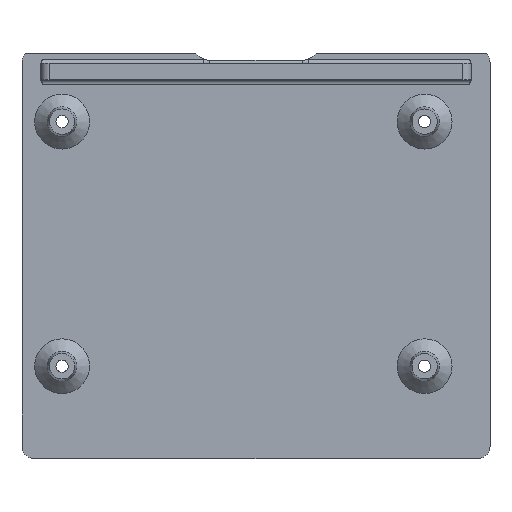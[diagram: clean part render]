
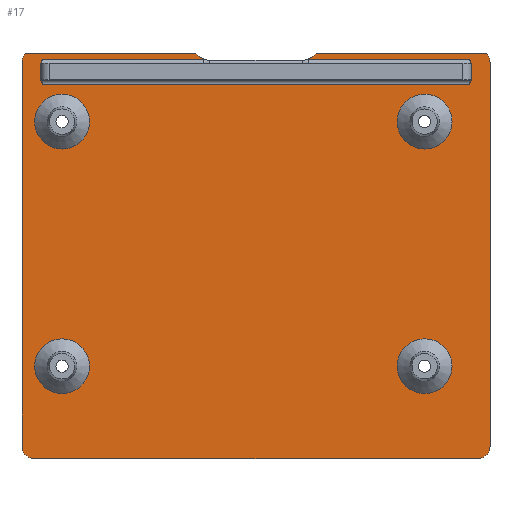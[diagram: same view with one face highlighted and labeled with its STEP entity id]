
A CAD part, top view. The second image highlights one B-rep face of the part: STEP entity #17.
In plain terms, the highlighted planar face has unit normal (0, 0, 1).
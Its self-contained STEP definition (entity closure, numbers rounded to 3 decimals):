
#17 = ADVANCED_FACE('',(#18,#186,#197,#208,#219),#230,.T.);
#18 = FACE_BOUND('',#19,.T.);
#19 = EDGE_LOOP('',(#20,#31,#39,#48,#56,#65,#73,#82,#90,#99,#107,#116,
    #124,#132,#140,#148,#156,#164,#172,#180));
#20 = ORIENTED_EDGE('',*,*,#21,.F.);
#21 = EDGE_CURVE('',#22,#24,#26,.T.);
#22 = VERTEX_POINT('',#23);
#23 = CARTESIAN_POINT('',(-14.244,48.08,5.));
#24 = VERTEX_POINT('',#25);
#25 = CARTESIAN_POINT('',(-12.52,46.72,5.));
#26 = CIRCLE('',#27,4.);
#27 = AXIS2_PLACEMENT_3D('',#28,#29,#30);
#28 = CARTESIAN_POINT('',(-11.,50.42,5.));
#29 = DIRECTION('',(0.,0.,1.));
#30 = DIRECTION('',(-1.,0.,0.));
#31 = ORIENTED_EDGE('',*,*,#32,.T.);
#32 = EDGE_CURVE('',#22,#33,#35,.T.);
#33 = VERTEX_POINT('',#34);
#34 = CARTESIAN_POINT('',(-54.582,48.08,5.));
#35 = LINE('',#36,#37);
#36 = CARTESIAN_POINT('',(-65.25,48.08,5.));
#37 = VECTOR('',#38,1.);
#38 = DIRECTION('',(-1.,0.,0.));
#39 = ORIENTED_EDGE('',*,*,#40,.F.);
#40 = EDGE_CURVE('',#41,#33,#43,.T.);
#41 = VERTEX_POINT('',#42);
#42 = CARTESIAN_POINT('',(-55.5,45.92,5.));
#43 = CIRCLE('',#44,3.);
#44 = AXIS2_PLACEMENT_3D('',#45,#46,#47);
#45 = CARTESIAN_POINT('',(-52.5,45.92,5.));
#46 = DIRECTION('',(-0.,-0.,-1.));
#47 = DIRECTION('',(0.,-1.,0.));
#48 = ORIENTED_EDGE('',*,*,#49,.F.);
#49 = EDGE_CURVE('',#50,#41,#52,.T.);
#50 = VERTEX_POINT('',#51);
#51 = CARTESIAN_POINT('',(-55.5,-45.08,5.));
#52 = LINE('',#53,#54);
#53 = CARTESIAN_POINT('',(-55.5,-48.08,5.));
#54 = VECTOR('',#55,1.);
#55 = DIRECTION('',(0.,1.,0.));
#56 = ORIENTED_EDGE('',*,*,#57,.T.);
#57 = EDGE_CURVE('',#50,#58,#60,.T.);
#58 = VERTEX_POINT('',#59);
#59 = CARTESIAN_POINT('',(-52.5,-48.08,5.));
#60 = CIRCLE('',#61,3.);
#61 = AXIS2_PLACEMENT_3D('',#62,#63,#64);
#62 = CARTESIAN_POINT('',(-52.5,-45.08,5.));
#63 = DIRECTION('',(-0.,0.,1.));
#64 = DIRECTION('',(0.,-1.,0.));
#65 = ORIENTED_EDGE('',*,*,#66,.T.);
#66 = EDGE_CURVE('',#58,#67,#69,.T.);
#67 = VERTEX_POINT('',#68);
#68 = CARTESIAN_POINT('',(52.5,-48.08,5.));
#69 = LINE('',#70,#71);
#70 = CARTESIAN_POINT('',(-55.5,-48.08,5.));
#71 = VECTOR('',#72,1.);
#72 = DIRECTION('',(1.,0.,0.));
#73 = ORIENTED_EDGE('',*,*,#74,.F.);
#74 = EDGE_CURVE('',#75,#67,#77,.T.);
#75 = VERTEX_POINT('',#76);
#76 = CARTESIAN_POINT('',(55.5,-45.08,5.));
#77 = CIRCLE('',#78,3.);
#78 = AXIS2_PLACEMENT_3D('',#79,#80,#81);
#79 = CARTESIAN_POINT('',(52.5,-45.08,5.));
#80 = DIRECTION('',(-0.,-0.,-1.));
#81 = DIRECTION('',(0.,-1.,0.));
#82 = ORIENTED_EDGE('',*,*,#83,.T.);
#83 = EDGE_CURVE('',#75,#84,#86,.T.);
#84 = VERTEX_POINT('',#85);
#85 = CARTESIAN_POINT('',(55.5,45.92,5.));
#86 = LINE('',#87,#88);
#87 = CARTESIAN_POINT('',(55.5,-48.08,5.));
#88 = VECTOR('',#89,1.);
#89 = DIRECTION('',(0.,1.,0.));
#90 = ORIENTED_EDGE('',*,*,#91,.T.);
#91 = EDGE_CURVE('',#84,#92,#94,.T.);
#92 = VERTEX_POINT('',#93);
#93 = CARTESIAN_POINT('',(54.582,48.08,5.));
#94 = CIRCLE('',#95,3.);
#95 = AXIS2_PLACEMENT_3D('',#96,#97,#98);
#96 = CARTESIAN_POINT('',(52.5,45.92,5.));
#97 = DIRECTION('',(-0.,0.,1.));
#98 = DIRECTION('',(0.,-1.,0.));
#99 = ORIENTED_EDGE('',*,*,#100,.T.);
#100 = EDGE_CURVE('',#92,#101,#103,.T.);
#101 = VERTEX_POINT('',#102);
#102 = CARTESIAN_POINT('',(14.244,48.08,5.));
#103 = LINE('',#104,#105);
#104 = CARTESIAN_POINT('',(-65.25,48.08,5.));
#105 = VECTOR('',#106,1.);
#106 = DIRECTION('',(-1.,0.,0.));
#107 = ORIENTED_EDGE('',*,*,#108,.F.);
#108 = EDGE_CURVE('',#109,#101,#111,.T.);
#109 = VERTEX_POINT('',#110);
#110 = CARTESIAN_POINT('',(12.52,46.72,5.));
#111 = CIRCLE('',#112,4.);
#112 = AXIS2_PLACEMENT_3D('',#113,#114,#115);
#113 = CARTESIAN_POINT('',(11.,50.42,5.));
#114 = DIRECTION('',(0.,0.,1.));
#115 = DIRECTION('',(1.,0.,0.));
#116 = ORIENTED_EDGE('',*,*,#117,.F.);
#117 = EDGE_CURVE('',#118,#109,#120,.T.);
#118 = VERTEX_POINT('',#119);
#119 = CARTESIAN_POINT('',(50.732,46.72,5.));
#120 = LINE('',#121,#122);
#121 = CARTESIAN_POINT('',(50.732,46.72,5.));
#122 = VECTOR('',#123,1.);
#123 = DIRECTION('',(-1.,0.,0.));
#124 = ORIENTED_EDGE('',*,*,#125,.F.);
#125 = EDGE_CURVE('',#126,#118,#128,.T.);
#126 = VERTEX_POINT('',#127);
#127 = CARTESIAN_POINT('',(50.732,45.72,5.));
#128 = LINE('',#129,#130);
#129 = CARTESIAN_POINT('',(50.732,41.72,5.));
#130 = VECTOR('',#131,1.);
#131 = DIRECTION('',(0.,1.,0.));
#132 = ORIENTED_EDGE('',*,*,#133,.F.);
#133 = EDGE_CURVE('',#134,#126,#136,.T.);
#134 = VERTEX_POINT('',#135);
#135 = CARTESIAN_POINT('',(50.732,41.72,5.));
#136 = LINE('',#137,#138);
#137 = CARTESIAN_POINT('',(50.732,41.72,5.));
#138 = VECTOR('',#139,1.);
#139 = DIRECTION('',(0.,1.,0.));
#140 = ORIENTED_EDGE('',*,*,#141,.T.);
#141 = EDGE_CURVE('',#134,#142,#144,.T.);
#142 = VERTEX_POINT('',#143);
#143 = CARTESIAN_POINT('',(50.732,40.72,5.));
#144 = LINE('',#145,#146);
#145 = CARTESIAN_POINT('',(50.732,41.72,5.));
#146 = VECTOR('',#147,1.);
#147 = DIRECTION('',(-0.,-1.,-0.));
#148 = ORIENTED_EDGE('',*,*,#149,.T.);
#149 = EDGE_CURVE('',#142,#150,#152,.T.);
#150 = VERTEX_POINT('',#151);
#151 = CARTESIAN_POINT('',(-50.732,40.72,5.));
#152 = LINE('',#153,#154);
#153 = CARTESIAN_POINT('',(50.732,40.72,5.));
#154 = VECTOR('',#155,1.);
#155 = DIRECTION('',(-1.,0.,0.));
#156 = ORIENTED_EDGE('',*,*,#157,.F.);
#157 = EDGE_CURVE('',#158,#150,#160,.T.);
#158 = VERTEX_POINT('',#159);
#159 = CARTESIAN_POINT('',(-50.732,41.72,5.));
#160 = LINE('',#161,#162);
#161 = CARTESIAN_POINT('',(-50.732,41.72,5.));
#162 = VECTOR('',#163,1.);
#163 = DIRECTION('',(-0.,-1.,-0.));
#164 = ORIENTED_EDGE('',*,*,#165,.T.);
#165 = EDGE_CURVE('',#158,#166,#168,.T.);
#166 = VERTEX_POINT('',#167);
#167 = CARTESIAN_POINT('',(-50.732,45.72,5.));
#168 = LINE('',#169,#170);
#169 = CARTESIAN_POINT('',(-50.732,41.72,5.));
#170 = VECTOR('',#171,1.);
#171 = DIRECTION('',(0.,1.,0.));
#172 = ORIENTED_EDGE('',*,*,#173,.T.);
#173 = EDGE_CURVE('',#166,#174,#176,.T.);
#174 = VERTEX_POINT('',#175);
#175 = CARTESIAN_POINT('',(-50.732,46.72,5.));
#176 = LINE('',#177,#178);
#177 = CARTESIAN_POINT('',(-50.732,41.72,5.));
#178 = VECTOR('',#179,1.);
#179 = DIRECTION('',(0.,1.,0.));
#180 = ORIENTED_EDGE('',*,*,#181,.F.);
#181 = EDGE_CURVE('',#24,#174,#182,.T.);
#182 = LINE('',#183,#184);
#183 = CARTESIAN_POINT('',(50.732,46.72,5.));
#184 = VECTOR('',#185,1.);
#185 = DIRECTION('',(-1.,0.,0.));
#186 = FACE_BOUND('',#187,.T.);
#187 = EDGE_LOOP('',(#188));
#188 = ORIENTED_EDGE('',*,*,#189,.F.);
#189 = EDGE_CURVE('',#190,#190,#192,.T.);
#190 = VERTEX_POINT('',#191);
#191 = CARTESIAN_POINT('',(-39.5,-26.142,5.));
#192 = CIRCLE('',#193,6.5);
#193 = AXIS2_PLACEMENT_3D('',#194,#195,#196);
#194 = CARTESIAN_POINT('',(-46.,-26.142,5.));
#195 = DIRECTION('',(0.,0.,1.));
#196 = DIRECTION('',(1.,0.,0.));
#197 = FACE_BOUND('',#198,.T.);
#198 = EDGE_LOOP('',(#199));
#199 = ORIENTED_EDGE('',*,*,#200,.F.);
#200 = EDGE_CURVE('',#201,#201,#203,.T.);
#201 = VERTEX_POINT('',#202);
#202 = CARTESIAN_POINT('',(46.5,-26.142,5.));
#203 = CIRCLE('',#204,6.5);
#204 = AXIS2_PLACEMENT_3D('',#205,#206,#207);
#205 = CARTESIAN_POINT('',(40.,-26.142,5.));
#206 = DIRECTION('',(0.,0.,1.));
#207 = DIRECTION('',(1.,0.,0.));
#208 = FACE_BOUND('',#209,.T.);
#209 = EDGE_LOOP('',(#210));
#210 = ORIENTED_EDGE('',*,*,#211,.F.);
#211 = EDGE_CURVE('',#212,#212,#214,.T.);
#212 = VERTEX_POINT('',#213);
#213 = CARTESIAN_POINT('',(-39.5,31.858,5.));
#214 = CIRCLE('',#215,6.5);
#215 = AXIS2_PLACEMENT_3D('',#216,#217,#218);
#216 = CARTESIAN_POINT('',(-46.,31.858,5.));
#217 = DIRECTION('',(0.,0.,1.));
#218 = DIRECTION('',(1.,0.,0.));
#219 = FACE_BOUND('',#220,.T.);
#220 = EDGE_LOOP('',(#221));
#221 = ORIENTED_EDGE('',*,*,#222,.F.);
#222 = EDGE_CURVE('',#223,#223,#225,.T.);
#223 = VERTEX_POINT('',#224);
#224 = CARTESIAN_POINT('',(46.5,31.858,5.));
#225 = CIRCLE('',#226,6.5);
#226 = AXIS2_PLACEMENT_3D('',#227,#228,#229);
#227 = CARTESIAN_POINT('',(40.,31.858,5.));
#228 = DIRECTION('',(0.,0.,1.));
#229 = DIRECTION('',(1.,0.,0.));
#230 = PLANE('',#231);
#231 = AXIS2_PLACEMENT_3D('',#232,#233,#234);
#232 = CARTESIAN_POINT('',(-55.5,-48.08,5.));
#233 = DIRECTION('',(0.,0.,1.));
#234 = DIRECTION('',(1.,0.,0.));
